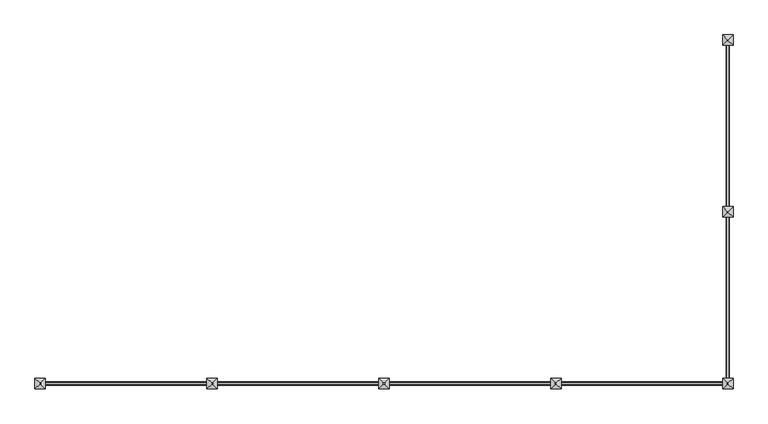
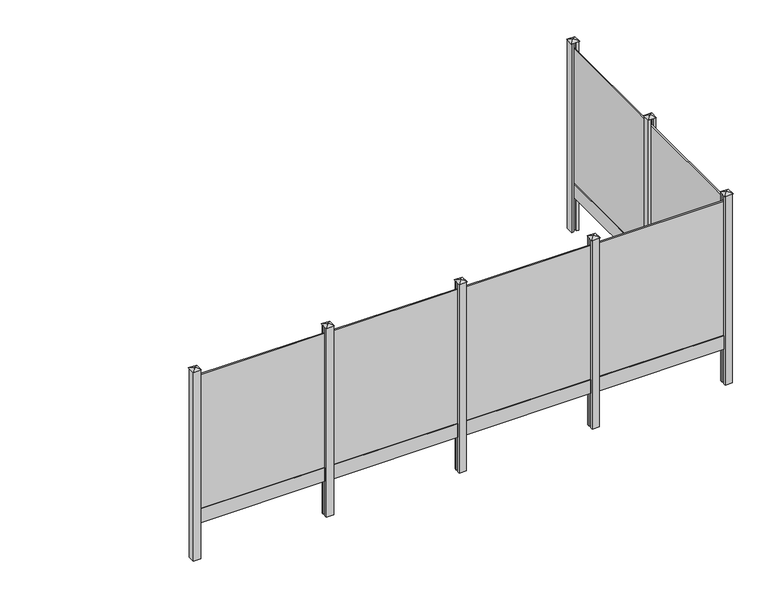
"""IFC4 building model written with IfcOpenShell, lengths in millimetres: railing geometry, Mehat - Railing - Plaque de Soubassement - Pour clôture composite - 178x20x3.5/2 cm."""

from ifc_helpers import new_model, si_unit, frame, origin, origin_with_axes, place, context, project, spatial, polyline, outline, extrude, faceted_brep, source, transform, mapped, element, save


def railing_4b589889(model_context):
    return source(origin(), model_context, "Body", "SolidModel", [
        extrude(outline(polyline([(-14103.7483484, 8452.5056064), (-14120.7483484, 8452.5056064), (-14120.7483484, 10232.5056064), (-14103.7483484, 10232.5056064), (-14103.7483484, 8452.5056064)])), frame((0.0, 0.0, 200.0), z_axis=(0.0, 0.0, 1.0), x_axis=(1.0, 0.0, 0.0)), (0.0, 0.0, 1.0), 1950.0),
        extrude(outline(polyline([(-14129.7483484, 10232.5056064), (-14109.7483484, 10232.5056064), (-14094.7483484, 10207.5056064), (-14094.7483484, 8477.5056064), (-14109.7483484, 8452.5056064), (-14129.7483484, 8452.5056064), (-14129.7483484, 10232.5056064)])), origin_with_axes(), (0.0, 0.0, 1.0), 200.0),
        extrude(outline(polyline([(-14062.2483484, 8377.5056064), (-14094.7483484, 8377.5056064), (-14094.7483484, 8402.5056064), (-14129.7483484, 8402.5056064), (-14129.7483484, 8377.5056064), (-14162.2483484, 8377.5056064), (-14162.2483484, 8477.5056064), (-14129.7483484, 8477.5056064), (-14129.7483484, 8452.5056064), (-14094.7483484, 8452.5056064), (-14094.7483484, 8477.5056064), (-14062.2483484, 8477.5056064), (-14062.2483484, 8377.5056064)])), frame((0.0, 0.0, -500.0), z_axis=(0.0, 0.0, 1.0), x_axis=(1.0, 0.0, 0.0)), (0.0, 0.0, 1.0), 2750.0),
        faceted_brep([(-14118.6528945, 8433.8556064, 2275.4), (-14118.6528945, 8421.1556064, 2275.4), (-14105.9528945, 8421.1556064, 2275.4), (-14105.9528945, 8433.8556064, 2275.4), (-14168.5983484, 8483.8556064, 2250.0), (-14055.8983484, 8483.8556064, 2250.0), (-14055.8983484, 8371.1556064, 2250.0), (-14168.5983484, 8371.1556064, 2250.0)], [[[0, 1, 2, 3]], [[4, 5, 6, 7]], [[4, 0, 3, 5]], [[5, 3, 2, 6]], [[6, 2, 1, 7]], [[7, 1, 0, 4]]]),
        extrude(outline(polyline([(-14103.7483484, 6622.5056064), (-14120.7483484, 6622.5056064), (-14120.7483484, 8402.5056064), (-14103.7483484, 8402.5056064), (-14103.7483484, 6622.5056064)])), frame((0.0, 0.0, 200.0), z_axis=(0.0, 0.0, 1.0), x_axis=(1.0, 0.0, 0.0)), (0.0, 0.0, 1.0), 1950.0),
        extrude(outline(polyline([(-14129.7483484, 8402.5056064), (-14109.7483484, 8402.5056064), (-14094.7483484, 8377.5056064), (-14094.7483484, 6647.5056064), (-14109.7483484, 6622.5056064), (-14129.7483484, 6622.5056064), (-14129.7483484, 8402.5056064)])), origin_with_axes(), (0.0, 0.0, 1.0), 200.0),
        extrude(outline(polyline([(-15917.2483484, 6589.0056064), (-15917.2483484, 6606.0056064), (-14137.2483484, 6606.0056064), (-14137.2483484, 6589.0056064), (-15917.2483484, 6589.0056064)])), frame((0.0, 0.0, 200.0), z_axis=(0.0, 0.0, 1.0), x_axis=(1.0, 0.0, 0.0)), (0.0, 0.0, 1.0), 1950.0),
        extrude(outline(polyline([(-14137.2483484, 6615.0056064), (-14137.2483484, 6595.0056064), (-14162.2483484, 6580.0056064), (-15892.2483484, 6580.0056064), (-15917.2483484, 6595.0056064), (-15917.2483484, 6615.0056064), (-14137.2483484, 6615.0056064)])), origin_with_axes(), (0.0, 0.0, 1.0), 200.0),
        extrude(outline(polyline([(-15992.2483484, 6547.5056064), (-15992.2483484, 6580.0056064), (-15967.2483484, 6580.0056064), (-15967.2483484, 6615.0056064), (-15992.2483484, 6615.0056064), (-15992.2483484, 6647.5056064), (-15892.2483484, 6647.5056064), (-15892.2483484, 6615.0056064), (-15917.2483484, 6615.0056064), (-15917.2483484, 6580.0056064), (-15892.2483484, 6580.0056064), (-15892.2483484, 6547.5056064), (-15992.2483484, 6547.5056064)])), frame((0.0, 0.0, -500.0), z_axis=(0.0, 0.0, 1.0), x_axis=(1.0, 0.0, 0.0)), (0.0, 0.0, 1.0), 2750.0),
        faceted_brep([(-15935.8983484, 6603.9101525, 2275.4), (-15948.5983484, 6603.9101525, 2275.4), (-15948.5983484, 6591.2101525, 2275.4), (-15935.8983484, 6591.2101525, 2275.4), (-15885.8983484, 6653.8556064, 2250.0), (-15885.8983484, 6541.1556064, 2250.0), (-15998.5983484, 6541.1556064, 2250.0), (-15998.5983484, 6653.8556064, 2250.0)], [[[0, 1, 2, 3]], [[4, 5, 6, 7]], [[4, 0, 3, 5]], [[5, 3, 2, 6]], [[6, 2, 1, 7]], [[7, 1, 0, 4]]]),
        extrude(outline(polyline([(-17747.2483484, 6589.0056064), (-17747.2483484, 6606.0056064), (-15967.2483484, 6606.0056064), (-15967.2483484, 6589.0056064), (-17747.2483484, 6589.0056064)])), frame((0.0, 0.0, 200.0), z_axis=(0.0, 0.0, 1.0), x_axis=(1.0, 0.0, 0.0)), (0.0, 0.0, 1.0), 1950.0),
        extrude(outline(polyline([(-15967.2483484, 6615.0056064), (-15967.2483484, 6595.0056064), (-15992.2483484, 6580.0056064), (-17722.2483484, 6580.0056064), (-17747.2483484, 6595.0056064), (-17747.2483484, 6615.0056064), (-15967.2483484, 6615.0056064)])), origin_with_axes(), (0.0, 0.0, 1.0), 200.0),
        extrude(outline(polyline([(-17822.2483484, 6547.5056064), (-17822.2483484, 6580.0056064), (-17797.2483484, 6580.0056064), (-17797.2483484, 6615.0056064), (-17822.2483484, 6615.0056064), (-17822.2483484, 6647.5056064), (-17722.2483484, 6647.5056064), (-17722.2483484, 6615.0056064), (-17747.2483484, 6615.0056064), (-17747.2483484, 6580.0056064), (-17722.2483484, 6580.0056064), (-17722.2483484, 6547.5056064), (-17822.2483484, 6547.5056064)])), frame((0.0, 0.0, -500.0), z_axis=(0.0, 0.0, 1.0), x_axis=(1.0, 0.0, 0.0)), (0.0, 0.0, 1.0), 2750.0),
        faceted_brep([(-17765.8983484, 6603.9101525, 2275.4), (-17778.5983484, 6603.9101525, 2275.4), (-17778.5983484, 6591.2101525, 2275.4), (-17765.8983484, 6591.2101525, 2275.4), (-17715.8983484, 6653.8556064, 2250.0), (-17715.8983484, 6541.1556064, 2250.0), (-17828.5983484, 6541.1556064, 2250.0), (-17828.5983484, 6653.8556064, 2250.0)], [[[0, 1, 2, 3]], [[4, 5, 6, 7]], [[4, 0, 3, 5]], [[5, 3, 2, 6]], [[6, 2, 1, 7]], [[7, 1, 0, 4]]]),
        extrude(outline(polyline([(-19577.2483484, 6589.0056064), (-19577.2483484, 6606.0056064), (-17797.2483484, 6606.0056064), (-17797.2483484, 6589.0056064), (-19577.2483484, 6589.0056064)])), frame((0.0, 0.0, 200.0), z_axis=(0.0, 0.0, 1.0), x_axis=(1.0, 0.0, 0.0)), (0.0, 0.0, 1.0), 1950.0),
        extrude(outline(polyline([(-17797.2483484, 6615.0056064), (-17797.2483484, 6595.0056064), (-17822.2483484, 6580.0056064), (-19552.2483484, 6580.0056064), (-19577.2483484, 6595.0056064), (-19577.2483484, 6615.0056064), (-17797.2483484, 6615.0056064)])), origin_with_axes(), (0.0, 0.0, 1.0), 200.0),
        extrude(outline(polyline([(-19652.2483484, 6547.5056064), (-19652.2483484, 6580.0056064), (-19627.2483484, 6580.0056064), (-19627.2483484, 6615.0056064), (-19652.2483484, 6615.0056064), (-19652.2483484, 6647.5056064), (-19552.2483484, 6647.5056064), (-19552.2483484, 6615.0056064), (-19577.2483484, 6615.0056064), (-19577.2483484, 6580.0056064), (-19552.2483484, 6580.0056064), (-19552.2483484, 6547.5056064), (-19652.2483484, 6547.5056064)])), frame((0.0, 0.0, -500.0), z_axis=(0.0, 0.0, 1.0), x_axis=(1.0, 0.0, 0.0)), (0.0, 0.0, 1.0), 2750.0),
        faceted_brep([(-19595.8983484, 6603.9101525, 2275.4), (-19608.5983484, 6603.9101525, 2275.4), (-19608.5983484, 6591.2101525, 2275.4), (-19595.8983484, 6591.2101525, 2275.4), (-19545.8983484, 6653.8556064, 2250.0), (-19545.8983484, 6541.1556064, 2250.0), (-19658.5983484, 6541.1556064, 2250.0), (-19658.5983484, 6653.8556064, 2250.0)], [[[0, 1, 2, 3]], [[4, 5, 6, 7]], [[4, 0, 3, 5]], [[5, 3, 2, 6]], [[6, 2, 1, 7]], [[7, 1, 0, 4]]]),
        extrude(outline(polyline([(-21407.2483484, 6589.0056064), (-21407.2483484, 6606.0056064), (-19627.2483484, 6606.0056064), (-19627.2483484, 6589.0056064), (-21407.2483484, 6589.0056064)])), frame((0.0, 0.0, 200.0), z_axis=(0.0, 0.0, 1.0), x_axis=(1.0, 0.0, 0.0)), (0.0, 0.0, 1.0), 1950.0),
        extrude(outline(polyline([(-19627.2483484, 6615.0056064), (-19627.2483484, 6595.0056064), (-19652.2483484, 6580.0056064), (-21382.2483484, 6580.0056064), (-21407.2483484, 6595.0056064), (-21407.2483484, 6615.0056064), (-19627.2483484, 6615.0056064)])), origin_with_axes(), (0.0, 0.0, 1.0), 200.0),
        extrude(outline(polyline([(-14162.2483484, 6547.5056064), (-14162.2483484, 6580.0056064), (-14137.2483484, 6580.0056064), (-14137.2483484, 6615.0056064), (-14162.2483484, 6615.0056064), (-14162.2483484, 6647.5056064), (-14129.7483484, 6647.5056064), (-14129.7483484, 6622.5056064), (-14094.7483484, 6622.5056064), (-14094.7483484, 6647.5056064), (-14062.2483484, 6647.5056064), (-14062.2483484, 6547.5056064), (-14162.2483484, 6547.5056064)])), frame((0.0, 0.0, -500.0), z_axis=(0.0, 0.0, 1.0), x_axis=(1.0, 0.0, 0.0)), (0.0, 0.0, 1.0), 2750.0),
        faceted_brep([(-14105.8983484, 6603.9101525, 2275.4), (-14118.5983484, 6603.9101525, 2275.4), (-14118.5983484, 6591.2101525, 2275.4), (-14105.8983484, 6591.2101525, 2275.4), (-14055.8983484, 6653.8556064, 2250.0), (-14055.8983484, 6541.1556064, 2250.0), (-14168.5983484, 6541.1556064, 2250.0), (-14168.5983484, 6653.8556064, 2250.0)], [[[0, 1, 2, 3]], [[4, 5, 6, 7]], [[4, 0, 3, 5]], [[5, 3, 2, 6]], [[6, 2, 1, 7]], [[7, 1, 0, 4]]]),
        extrude(outline(polyline([(-14062.2483484, 10207.5056064), (-14094.7483484, 10207.5056064), (-14094.7483484, 10232.5056064), (-14129.7483484, 10232.5056064), (-14129.7483484, 10207.5056064), (-14162.2483484, 10207.5056064), (-14162.2483484, 10307.5056064), (-14062.2483484, 10307.5056064), (-14062.2483484, 10207.5056064)])), frame((0.0, 0.0, -500.0), z_axis=(0.0, 0.0, 1.0), x_axis=(1.0, 0.0, 0.0)), (0.0, 0.0, 1.0), 2750.0),
        faceted_brep([(-14118.6528945, 10263.8556064, 2275.4), (-14118.6528945, 10251.1556064, 2275.4), (-14105.9528945, 10251.1556064, 2275.4), (-14105.9528945, 10263.8556064, 2275.4), (-14168.5983484, 10313.8556064, 2250.0), (-14055.8983484, 10313.8556064, 2250.0), (-14055.8983484, 10201.1556064, 2250.0), (-14168.5983484, 10201.1556064, 2250.0)], [[[0, 1, 2, 3]], [[4, 5, 6, 7]], [[4, 0, 3, 5]], [[5, 3, 2, 6]], [[6, 2, 1, 7]], [[7, 1, 0, 4]]]),
        extrude(outline(polyline([(-21482.2483484, 6547.5056064), (-21482.2483484, 6647.5056064), (-21382.2483484, 6647.5056064), (-21382.2483484, 6615.0056064), (-21407.2483484, 6615.0056064), (-21407.2483484, 6580.0056064), (-21382.2483484, 6580.0056064), (-21382.2483484, 6547.5056064), (-21482.2483484, 6547.5056064)])), frame((0.0, 0.0, -500.0), z_axis=(0.0, 0.0, 1.0), x_axis=(1.0, 0.0, 0.0)), (0.0, 0.0, 1.0), 2750.0),
        faceted_brep([(-21425.8983484, 6603.9101525, 2275.4), (-21438.5983484, 6603.9101525, 2275.4), (-21438.5983484, 6591.2101525, 2275.4), (-21425.8983484, 6591.2101525, 2275.4), (-21375.8983484, 6653.8556064, 2250.0), (-21375.8983484, 6541.1556064, 2250.0), (-21488.5983484, 6541.1556064, 2250.0), (-21488.5983484, 6653.8556064, 2250.0)], [[[0, 1, 2, 3]], [[4, 5, 6, 7]], [[4, 0, 3, 5]], [[5, 3, 2, 6]], [[6, 2, 1, 7]], [[7, 1, 0, 4]]]),
    ])


if __name__ == "__main__":
    model = new_model("IFC4")
    model_context = context("Model", 3, world=origin())
    ifc_project = project(units=[si_unit("LENGTHUNIT", "METRE", prefix="MILLI")], contexts=[model_context])
    site = spatial("IfcSite", under=ifc_project)
    building = spatial("IfcBuilding", under=site)
    placement = place(None, origin())
    railing_shape = railing_4b589889(model_context)
    element("IfcRailing", 1, ObjectType="Mehat - Railing - Plaque de Soubassement - Pour clôture composite - 178x20x3.5/2 cm", at=placement, inside=building, context=model_context, shape_type="MappedRepresentation", body=[
        mapped(railing_shape, transform((0.0, 0.0, 0.0), x_axis=(1.0, 0.0, 0.0), y_axis=(0.0, 1.0, 0.0), z_axis=(0.0, 0.0, 1.0))),
    ])
    save(model, "model.ifc")
